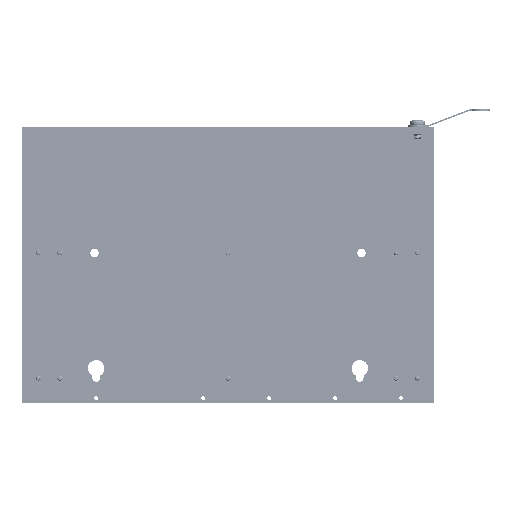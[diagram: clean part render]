
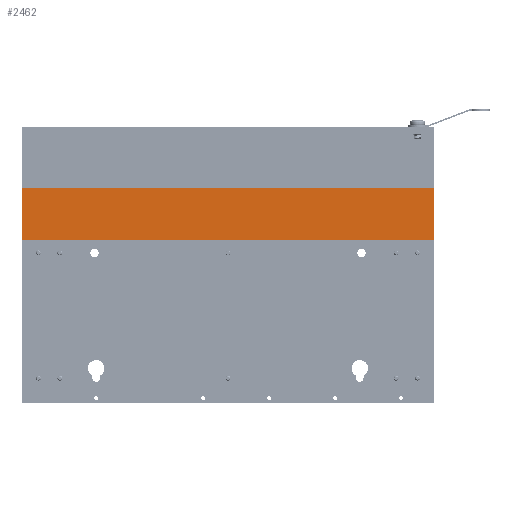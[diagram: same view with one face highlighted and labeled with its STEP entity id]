
A CAD part, front view. The second image highlights one B-rep face of the part: STEP entity #2462.
In plain terms, the highlighted planar face has unit normal (0, -1, 0).
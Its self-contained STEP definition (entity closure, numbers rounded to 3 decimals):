
#328=DIRECTION('',(0.,0.,1.));
#329=VECTOR('',#328,31.4);
#330=CARTESIAN_POINT('',(-20.,27.5,-70.9));
#331=LINE('',#330,#329);
#410=DIRECTION('',(0.,0.,1.));
#411=VECTOR('',#410,31.4);
#412=CARTESIAN_POINT('',(-270.,27.5,-70.9));
#413=LINE('',#412,#411);
#482=DIRECTION('',(-1.,0.,0.));
#483=VECTOR('',#482,250.);
#484=CARTESIAN_POINT('',(-20.,27.5,-39.5));
#485=LINE('',#484,#483);
#486=DIRECTION('',(-1.,0.,0.));
#487=VECTOR('',#486,250.);
#488=CARTESIAN_POINT('',(-20.,27.5,-70.9));
#489=LINE('',#488,#487);
#1755=CARTESIAN_POINT('',(-20.,27.5,-39.5));
#1757=VERTEX_POINT('',#1755);
#1759=CARTESIAN_POINT('',(-20.,27.5,-70.9));
#1761=VERTEX_POINT('',#1759);
#1767=CARTESIAN_POINT('',(-270.,27.5,-39.5));
#1769=VERTEX_POINT('',#1767);
#1771=CARTESIAN_POINT('',(-270.,27.5,-70.9));
#1773=VERTEX_POINT('',#1771);
#2450=CARTESIAN_POINT('',(-20.,27.5,-70.9));
#2451=DIRECTION('',(0.,1.,0.));
#2452=DIRECTION('',(0.,0.,1.));
#2453=AXIS2_PLACEMENT_3D('',#2450,#2451,#2452);
#2454=PLANE('',#2453);
#2455=ORIENTED_EDGE('',*,*,#2240,.F.);
#2457=ORIENTED_EDGE('',*,*,#2456,.T.);
#2458=ORIENTED_EDGE('',*,*,#2358,.T.);
#2459=ORIENTED_EDGE('',*,*,#2443,.F.);
#2460=EDGE_LOOP('',(#2455,#2457,#2458,#2459));
#2461=FACE_OUTER_BOUND('',#2460,.F.);
#2462=ADVANCED_FACE('',(#2461),#2454,.F.);
#2240=EDGE_CURVE('',#1761,#1757,#331,.T.);
#2358=EDGE_CURVE('',#1773,#1769,#413,.T.);
#2443=EDGE_CURVE('',#1757,#1769,#485,.T.);
#2456=EDGE_CURVE('',#1761,#1773,#489,.T.);
